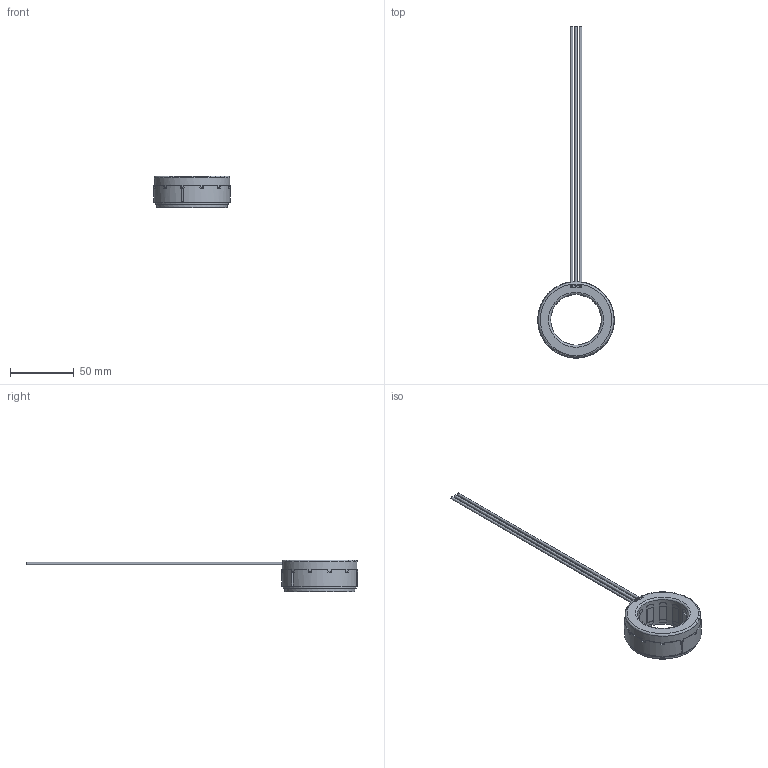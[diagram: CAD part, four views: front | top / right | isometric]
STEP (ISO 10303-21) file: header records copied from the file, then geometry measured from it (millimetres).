
FILE_DESCRIPTION(/* description */ (''),/* implementation_level */ '2;1');
FILE_NAME(/* name */ 'IA-A3BZA.stp',/* time_stamp */ '2023-12-27T18:23:54+09:00',/* author */ (''),/* organization */ (''),/* preprocessor_version */ 'ST-DEVELOPER v18.101',/* originating_system */ 'SIEMENS PLM Software NX 2011',/* authorisation */ '');
FILE_SCHEMA (('AUTOMOTIVE_DESIGN { 1 0 10303 214 3 1 1 1 }'));
Length unit declared in the file: millimetre
Products named in the file (1): IA-A3BZA
Bounding box: 59.83 x 259.91 x 25 mm (x, y, z)
Volume: 38913.7 mm3; surface area: 15030.3 mm2
Topology: 4 solids, 4 shells, 460 faces, 1287 edges, 855 vertices
Faces by surface type: plane 285, cylinder 148, torus 17, extrusion 10
Full cylindrical faces by diameter (mm): 2 x3, 40 x1, 55 x1, 57.4 x1, 59 x1
Entity records: 15883 total; most frequent: CARTESIAN_POINT 3786, ORIENTED_EDGE 2530, DIRECTION 2512, EDGE_CURVE 1265, AXIS2_PLACEMENT_3D 872, VERTEX_POINT 843, VECTOR 768, LINE 758
